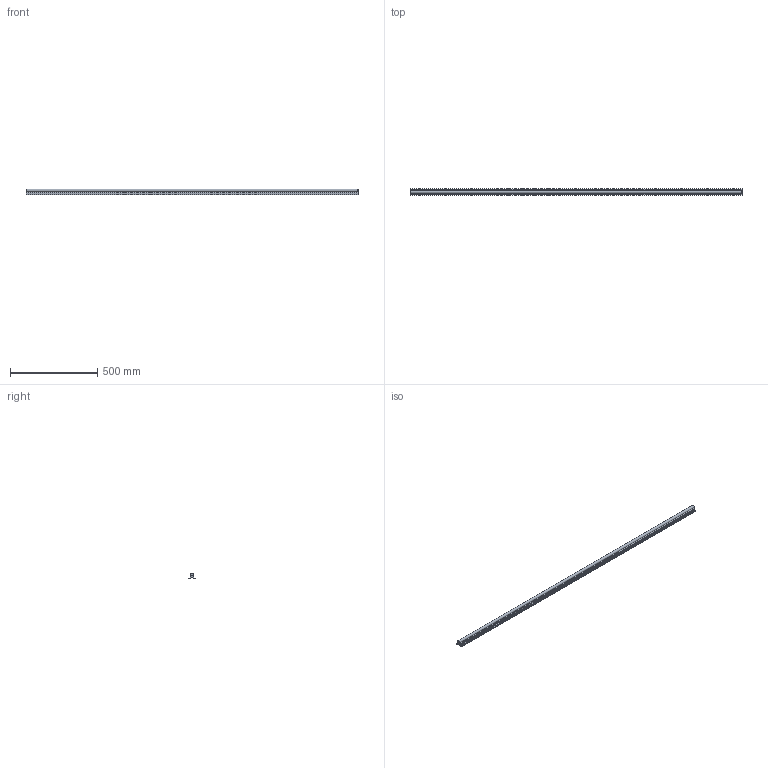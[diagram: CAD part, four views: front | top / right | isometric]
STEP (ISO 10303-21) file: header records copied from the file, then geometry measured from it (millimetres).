
FILE_DESCRIPTION(/* description */ (''),/* implementation_level */ '2;1');
FILE_NAME(/* name */ 'C:\Users\David\Desktop\stepFiles\Profilfuehrung\LFS16x1900.stp',/* time_stamp */ '2018-06-24T15:18:22+02:00',/* author */ ('Buskamp'),/* organization */ (''),/* preprocessor_version */ 'ST-DEVELOPER v17',/* originating_system */ 'Autodesk Inventor 2019',/* authorisation */ '');
FILE_SCHEMA (('AUTOMOTIVE_DESIGN { 1 0 10303 214 3 1 1 }'));
Length unit declared in the file: millimetre
Products named in the file (1): Linearführung D16xvariabel
Bounding box: 1900 x 40 x 32.97 mm (x, y, z)
Volume: 970256 mm3; surface area: 298057.1 mm2
Topology: 1 solids, 1 shells, 148 faces, 510 edges, 338 vertices
Faces by surface type: plane 103, cylinder 27, cone 18
Full cylindrical faces by diameter (mm): 5.5 x26
Entity records: 5695 total; most frequent: CARTESIAN_POINT 1069, ORIENTED_EDGE 1020, DIRECTION 974, EDGE_CURVE 510, AXIS2_PLACEMENT_3D 351, VERTEX_POINT 338, LINE 272, VECTOR 272
